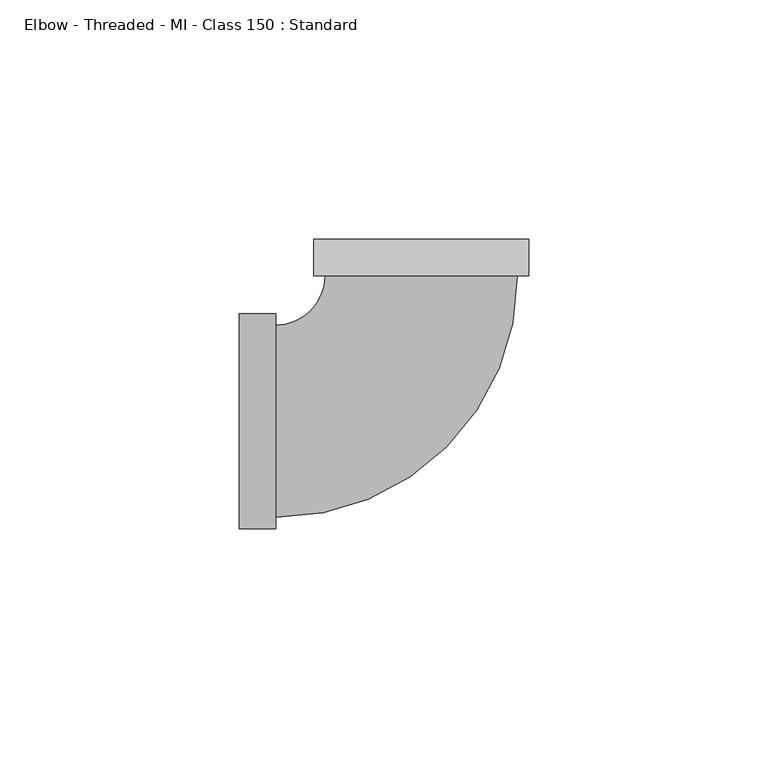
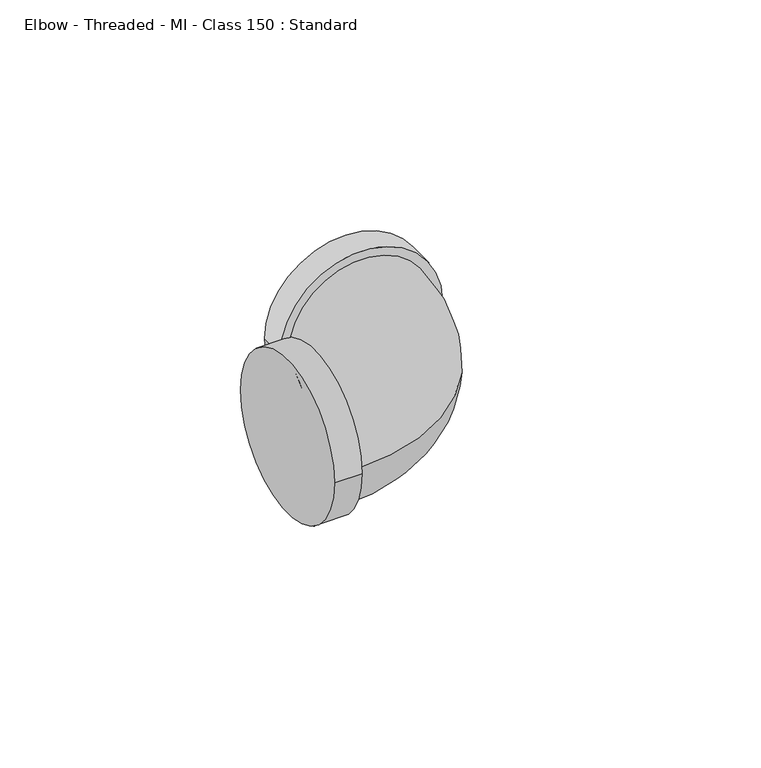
"""IFC4 building model written with IfcOpenShell, lengths in millimetres: pipe fitting geometry, Elbow - Threaded - MI - Class 150 : Standard."""

from ifc_helpers import new_model, si_unit, point, frame, origin, place, context, project, spatial, circle_curve, ellipse_curve, trimmed, source, transform, mapped, element, save
from ifc_brep_helpers import plane_surface, cylinder_surface, revolved_surface, advanced_brep


def elbow_threaded_mi_class_150_standard_9e2fd9b8(model_context):
    return source(origin(), model_context, "Body", "AdvancedBrep", [
        advanced_brep(
        [(-38.1, -22.5, 0.0), (-38.1, 22.5, 0.0), (-30.4, -22.5, 0.0), (-30.4, 22.5, 0.0), (-30.4, -20.1, 0.0), (-30.4, 20.1, 0.0), (22.5, 30.4, 0.0), (-22.5, 30.4, 0.0), (-20.1, 30.4, 0.0), (20.1, 30.4, 0.0), (22.5, 38.1, 0.0), (-22.5, 38.1, 0.0)],
        [
            (0, 1, circle_curve(frame((-38.1, 0.0, 0.0), z_axis=(-1.0, 0.0, 0.0), x_axis=(0.0, 1.0, 0.0)), 22.5)),
            (1, 0, circle_curve(frame((-38.1, 0.0, 0.0), z_axis=(-1.0, 0.0, 0.0), x_axis=(0.0, 1.0, 0.0)), 22.5)),
            (2, 3, circle_curve(frame((-30.4, 0.0, 0.0), z_axis=(1.0, 0.0, 0.0), x_axis=(0.0, 1.0, 0.0)), 22.5)),
            (3, 2, circle_curve(frame((-30.4, 0.0, 0.0), z_axis=(1.0, 0.0, 0.0), x_axis=(0.0, 1.0, 0.0)), 22.5)),
            (4, 5, circle_curve(frame((-30.4, 0.0, 0.0), z_axis=(-1.0, 0.0, 0.0), x_axis=(0.0, 1.0, 0.0)), 20.1)),
            (5, 4, circle_curve(frame((-30.4, 0.0, 0.0), z_axis=(-1.0, 0.0, 0.0), x_axis=(0.0, 1.0, 0.0)), 20.1)),
            (0, 2),
            (3, 1),
            (6, 7, circle_curve(frame((0.0, 30.4, 0.0), z_axis=(0.0, -1.0, 0.0), x_axis=(-1.0, 0.0, 0.0)), 22.5)),
            (7, 6, circle_curve(frame((0.0, 30.4, 0.0), z_axis=(0.0, -1.0, 0.0), x_axis=(-1.0, 0.0, 0.0)), 22.5)),
            (8, 9, circle_curve(frame((0.0, 30.4, 0.0), z_axis=(0.0, 1.0, 0.0), x_axis=(-1.0, 0.0, 0.0)), 20.1)),
            (9, 8, circle_curve(frame((0.0, 30.4, 0.0), z_axis=(0.0, 1.0, 0.0), x_axis=(-1.0, 0.0, 0.0)), 20.1)),
            (10, 11, circle_curve(frame((0.0, 38.1, 0.0), z_axis=(0.0, 1.0, 0.0), x_axis=(-1.0, 0.0, 0.0)), 22.5)),
            (11, 10, circle_curve(frame((0.0, 38.1, 0.0), z_axis=(0.0, 1.0, 0.0), x_axis=(-1.0, 0.0, 0.0)), 22.5)),
            (6, 10),
            (11, 7),
            (8, 5, circle_curve(frame((-30.4, 30.4, 0.0), z_axis=(0.0, 0.0, -1.0), x_axis=(0.0, -1.0, 0.0)), 10.3)),
            (4, 9, circle_curve(frame((-30.4, 30.4, 0.0), z_axis=(0.0, 0.0, 1.0), x_axis=(0.0, -1.0, 0.0)), 50.5)),
        ],
        [
            plane_surface(frame((-38.1, 0.0, 0.0), z_axis=(-1.0, 0.0, 0.0), x_axis=(0.0, 0.0, 1.0))),
            plane_surface(frame((-30.4, 0.0, 0.0), z_axis=(1.0, 0.0, 0.0), x_axis=(0.0, 0.0, 1.0))),
            cylinder_surface(frame((-38.1, 0.0, 0.0), z_axis=(-1.0, 0.0, 0.0), x_axis=(0.0, 1.0, 0.0)), 22.5),
            plane_surface(frame((0.0, 30.4, 0.0), z_axis=(0.0, -1.0, 0.0), x_axis=(0.0, 0.0, 1.0))),
            plane_surface(frame((0.0, 38.1, 0.0), z_axis=(0.0, 1.0, 0.0), x_axis=(0.0, 0.0, 1.0))),
            cylinder_surface(frame((0.0, 30.4, 0.0), z_axis=(0.0, -1.0, 0.0), x_axis=(-1.0, 0.0, 0.0)), 22.5),
            revolved_surface(trimmed(ellipse_curve(frame((-30.4, 0.0, 0.0), z_axis=(-1.0, 0.0, 0.0), x_axis=(0.0, 1.0, 0.0)), 20.1, 20.1), [point((-30.4, -20.1, 0.0))], [point((-30.4, 20.1, 0.0))], True, "CARTESIAN"), (-30.4, 30.4, 0.0), (0.0, 0.0, 1.0)),
            revolved_surface(trimmed(ellipse_curve(frame((-30.4, 0.0, 0.0), z_axis=(-1.0, 0.0, 0.0), x_axis=(0.0, 1.0, 0.0)), 20.1, 20.1), [point((-30.4, 20.1, 0.0))], [point((-30.4, -20.1, 0.0))], True, "CARTESIAN"), (-30.4, 30.4, 0.0), (0.0, 0.0, 1.0)),
        ],
        [
            (0, [[1, 2]]),
            (1, [[3, 4], [5, 6]]),
            (2, [[-1, 7, -4, 8]]),
            (2, [[-2, -8, -3, -7]]),
            (3, [[9, 10], [11, 12]]),
            (4, [[13, 14]]),
            (5, [[-9, 15, -14, 16]]),
            (5, [[-10, -16, -13, -15]]),
            (6, [[17, -5, 18, -11]]),
            (7, [[-17, -12, -18, -6]]),
        ],
    ),
    ])


if __name__ == "__main__":
    model = new_model("IFC4")
    model_context = context("Model", 3, world=origin())
    ifc_project = project(units=[si_unit("LENGTHUNIT", "METRE", prefix="MILLI")], contexts=[model_context])
    site = spatial("IfcSite", under=ifc_project)
    building = spatial("IfcBuilding", under=site)
    placement = place(None, origin())
    elbow_threaded_mi_class_150_standard_shape = elbow_threaded_mi_class_150_standard_9e2fd9b8(model_context)
    element("IfcPipeFitting", 1, ObjectType="Elbow - Threaded - MI - Class 150 : Standard", at=placement, inside=building, context=model_context, shape_type="MappedRepresentation", body=[
        mapped(elbow_threaded_mi_class_150_standard_shape, transform((0.0, 0.0, 0.0), x_axis=(1.0, 0.0, 0.0), y_axis=(0.0, 1.0, 0.0), z_axis=(0.0, 0.0, 1.0))),
    ])
    save(model, "model.ifc")
